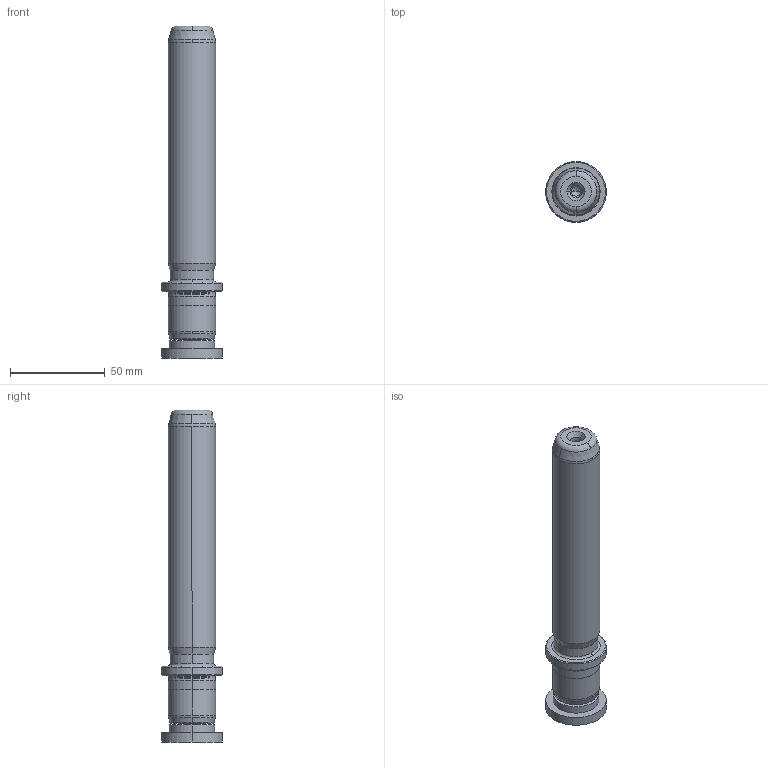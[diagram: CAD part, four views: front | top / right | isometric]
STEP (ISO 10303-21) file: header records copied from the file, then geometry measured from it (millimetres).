
FILE_DESCRIPTION((''),'2;1');
FILE_NAME('P22_025_140.stp','2009-02-02T15:36:25',(''),(''),'Mechanical Desktop 2009','Mechanical Desktop 2009',', , ');
FILE_SCHEMA(('CONFIG_CONTROL_DESIGN'));
Length unit declared in the file: millimetre
Products named in the file (2): Product; blmdl1
Assembly tree (1 placements, depth 2):
  Product
    blmdl1
Bounding box: 32 x 32 x 175 mm (x, y, z)
Volume: 85885.9 mm3; surface area: 18271.6 mm2
Topology: 3 solids, 3 shells, 99 faces, 237 edges, 149 vertices
Faces by surface type: cylinder 32, cone 28, plane 19, torus 10, bspline 10
Entity records: 3419 total; most frequent: CARTESIAN_POINT 923, DIRECTION 570, ORIENTED_EDGE 466, AXIS2_PLACEMENT_3D 246, EDGE_CURVE 233, CIRCLE 155, VERTEX_POINT 149, EDGE_LOOP 110
